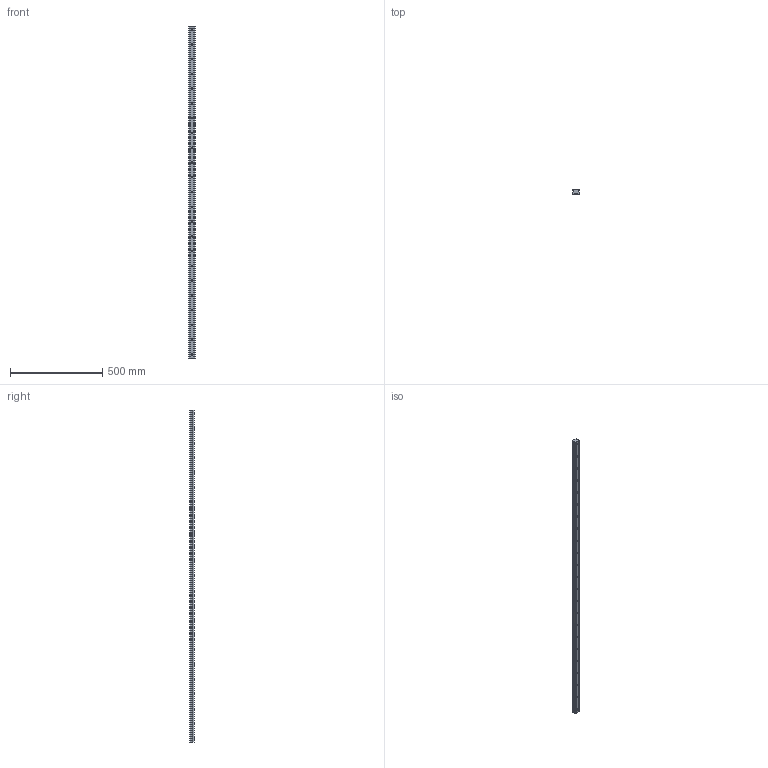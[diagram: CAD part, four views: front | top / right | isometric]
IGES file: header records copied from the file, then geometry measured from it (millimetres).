
Start section: SolidWorks IGES file using analytic representation for surfaces
Global section: file name: C:\Users\IanO\Desktop\Temp File\GENERAL\L1016_v2\L1016.RF35_v2\L1016.RF35_v2_20190612_IGES\L1016.RF35-1800.igs; native system: SolidWorks 2017; preprocessor: SolidWorks 2017; author: IanO; date: 190613.172842; units: millimetre
Bounding box: 34 x 26 x 1800 mm (x, y, z)
Surface area: 235187 mm2 (no closed solid volume)
Topology: 0 solids, 0 shells, 187 faces, 2928 edges, 2882 vertices
Faces by surface type: revolution 142, bspline 45
